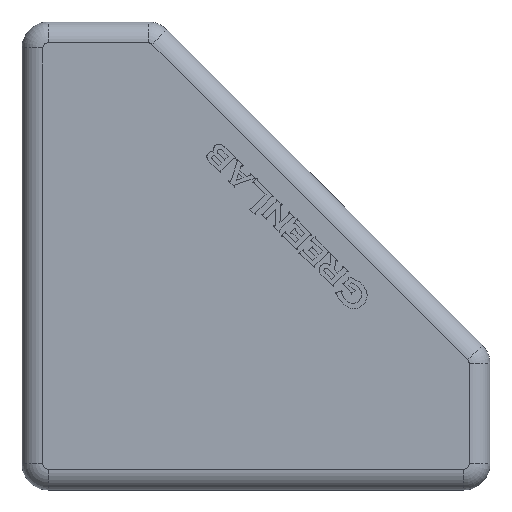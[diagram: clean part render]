
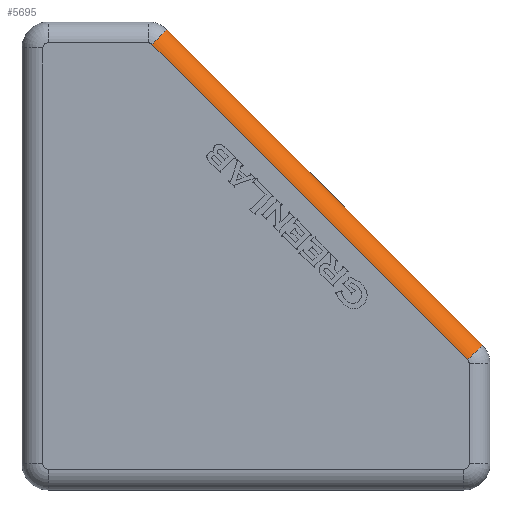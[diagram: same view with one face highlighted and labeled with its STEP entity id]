
A CAD part, top view. The second image highlights one B-rep face of the part: STEP entity #5695.
In plain terms, the highlighted cylindrical face has radius 2 mm (diameter 4 mm), a partial arc.
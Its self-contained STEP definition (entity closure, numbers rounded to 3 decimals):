
#176 = CIRCLE ( 'NONE', #6052, 2. ) ;
#878 = VERTEX_POINT ( 'NONE', #3330 ) ;
#933 = EDGE_LOOP ( 'NONE', ( #8750, #988, #4657, #8725 ) ) ;
#988 = ORIENTED_EDGE ( 'NONE', *, *, #3591, .F. ) ;
#1056 = EDGE_CURVE ( 'NONE', #2789, #878, #8957, .T. ) ;
#1343 = DIRECTION ( 'NONE',  ( 0.707, 0.707, 0. ) ) ;
#1389 = AXIS2_PLACEMENT_3D ( 'NONE', #9554, #8013, #2225 ) ;
#2065 = EDGE_CURVE ( 'NONE', #2789, #7187, #176, .T. ) ;
#2150 = DIRECTION ( 'NONE',  ( -0.707, 0.707, 0. ) ) ;
#2225 = DIRECTION ( 'NONE',  ( -0.707, -0.707, 0. ) ) ;
#2789 = VERTEX_POINT ( 'NONE', #8972 ) ;
#2800 = CARTESIAN_POINT ( 'NONE',  ( -10.002, 20.354, 1. ) ) ;
#3165 = DIRECTION ( 'NONE',  ( 0.707, -0.707, 0. ) ) ;
#3330 = CARTESIAN_POINT ( 'NONE',  ( 21.768, -8.588, 1. ) ) ;
#3591 = EDGE_CURVE ( 'NONE', #9944, #7187, #10013, .T. ) ;
#3807 = CYLINDRICAL_SURFACE ( 'NONE', #1389, 2. ) ;
#3908 = AXIS2_PLACEMENT_3D ( 'NONE', #7562, #6825, #8464 ) ;
#4007 = FACE_OUTER_BOUND ( 'NONE', #933, .T. ) ;
#4657 = ORIENTED_EDGE ( 'NONE', *, *, #6604, .F. ) ;
#5695 = ADVANCED_FACE ( 'NONE', ( #4007 ), #3807, .T. ) ;
#5990 = VECTOR ( 'NONE', #2150, 1000. ) ;
#6052 = AXIS2_PLACEMENT_3D ( 'NONE', #2800, #6072, #1343 ) ;
#6072 = DIRECTION ( 'NONE',  ( 0.707, -0.707, 0. ) ) ;
#6584 = CARTESIAN_POINT ( 'NONE',  ( 22.5, -9.32, 1. ) ) ;
#6604 = EDGE_CURVE ( 'NONE', #878, #9944, #8459, .T. ) ;
#6684 = CARTESIAN_POINT ( 'NONE',  ( -10.002, 20.354, 3. ) ) ;
#6825 = DIRECTION ( 'NONE',  ( 0.707, -0.707, 0. ) ) ;
#7082 = CARTESIAN_POINT ( 'NONE',  ( 20.353, -10.002, 3. ) ) ;
#7187 = VERTEX_POINT ( 'NONE', #6684 ) ;
#7408 = VECTOR ( 'NONE', #3165, 1000. ) ;
#7562 = CARTESIAN_POINT ( 'NONE',  ( 20.353, -10.002, 1. ) ) ;
#8013 = DIRECTION ( 'NONE',  ( -0.707, 0.707, 0. ) ) ;
#8459 = CIRCLE ( 'NONE', #3908, 2. ) ;
#8464 = DIRECTION ( 'NONE',  ( 0.707, 0.707, 0. ) ) ;
#8725 = ORIENTED_EDGE ( 'NONE', *, *, #1056, .F. ) ;
#8750 = ORIENTED_EDGE ( 'NONE', *, *, #2065, .T. ) ;
#8957 = LINE ( 'NONE', #6584, #7408 ) ;
#8972 = CARTESIAN_POINT ( 'NONE',  ( -8.588, 21.768, 1. ) ) ;
#9370 = CARTESIAN_POINT ( 'NONE',  ( 5.176, 5.176, 3. ) ) ;
#9554 = CARTESIAN_POINT ( 'NONE',  ( 5.176, 5.176, 1. ) ) ;
#9944 = VERTEX_POINT ( 'NONE', #7082 ) ;
#10013 = LINE ( 'NONE', #9370, #5990 ) ;
